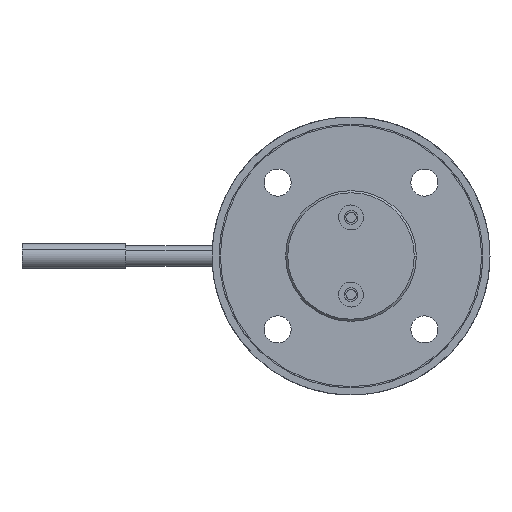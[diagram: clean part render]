
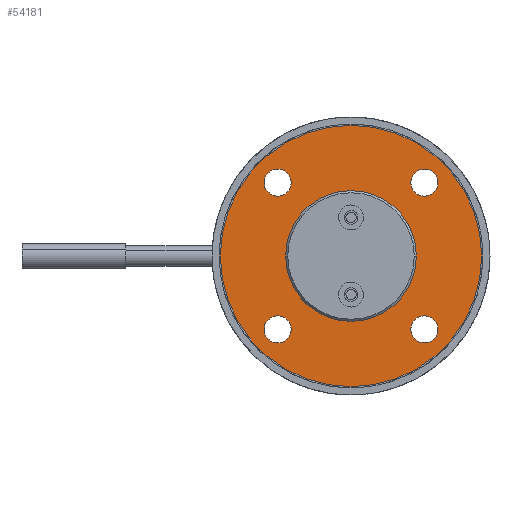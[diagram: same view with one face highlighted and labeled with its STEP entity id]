
A CAD part, left-side view. The second image highlights one B-rep face of the part: STEP entity #54181.
In plain terms, the highlighted planar face has unit normal (-1, 0, 0) as drawn and (1, 0, 0) by its records, which use the part's own axes.
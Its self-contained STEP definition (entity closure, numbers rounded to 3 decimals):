
#53608=CARTESIAN_POINT('Axis2P3D Location',(5.7,0.,0.)) ;
#53612=CARTESIAN_POINT('Vertex',(5.7,-31.5,0.)) ;
#53614=CARTESIAN_POINT('Vertex',(5.7,31.5,0.)) ;
#53643=CARTESIAN_POINT('Axis2P3D Location',(5.7,0.,0.)) ;
#53800=CARTESIAN_POINT('Vertex',(5.7,-14.428,17.678)) ;
#53814=CARTESIAN_POINT('Vertex',(5.7,-20.928,17.678)) ;
#53817=CARTESIAN_POINT('Axis2P3D Location',(5.7,-17.678,17.678)) ;
#53834=CARTESIAN_POINT('Axis2P3D Location',(5.7,-17.678,17.678)) ;
#54096=CARTESIAN_POINT('Axis2P3D Location',(5.7,0.,0.)) ;
#54109=CARTESIAN_POINT('Axis2P3D Location',(5.7,0.,0.)) ;
#54113=CARTESIAN_POINT('Vertex',(5.7,-15.75,0.)) ;
#54115=CARTESIAN_POINT('Vertex',(5.7,15.75,0.)) ;
#54118=CARTESIAN_POINT('Axis2P3D Location',(5.7,0.,0.)) ;
#54127=CARTESIAN_POINT('Axis2P3D Location',(5.7,-17.678,-17.678)) ;
#54131=CARTESIAN_POINT('Vertex',(5.7,-17.678,-14.428)) ;
#54133=CARTESIAN_POINT('Vertex',(5.7,-17.678,-20.928)) ;
#54136=CARTESIAN_POINT('Axis2P3D Location',(5.7,-17.678,-17.678)) ;
#54145=CARTESIAN_POINT('Axis2P3D Location',(5.7,17.678,-17.678)) ;
#54149=CARTESIAN_POINT('Vertex',(5.7,14.428,-17.678)) ;
#54151=CARTESIAN_POINT('Vertex',(5.7,20.928,-17.678)) ;
#54154=CARTESIAN_POINT('Axis2P3D Location',(5.7,17.678,-17.678)) ;
#54163=CARTESIAN_POINT('Axis2P3D Location',(5.7,17.678,17.678)) ;
#54167=CARTESIAN_POINT('Vertex',(5.7,17.678,14.428)) ;
#54169=CARTESIAN_POINT('Vertex',(5.7,17.678,20.928)) ;
#54172=CARTESIAN_POINT('Axis2P3D Location',(5.7,17.678,17.678)) ;
#53609=DIRECTION('Axis2P3D Direction',(-1.,0.,0.)) ;
#53644=DIRECTION('Axis2P3D Direction',(-1.,0.,0.)) ;
#53818=DIRECTION('Axis2P3D Direction',(-1.,0.,0.)) ;
#53835=DIRECTION('Axis2P3D Direction',(-1.,0.,0.)) ;
#54097=DIRECTION('Axis2P3D Direction',(-1.,0.,0.)) ;
#54098=DIRECTION('Axis2P3D XDirection',(0.,-1.,0.)) ;
#54110=DIRECTION('Axis2P3D Direction',(-1.,0.,0.)) ;
#54119=DIRECTION('Axis2P3D Direction',(-1.,0.,0.)) ;
#54128=DIRECTION('Axis2P3D Direction',(-1.,0.,0.)) ;
#54137=DIRECTION('Axis2P3D Direction',(-1.,0.,0.)) ;
#54146=DIRECTION('Axis2P3D Direction',(-1.,0.,0.)) ;
#54155=DIRECTION('Axis2P3D Direction',(-1.,0.,0.)) ;
#54164=DIRECTION('Axis2P3D Direction',(-1.,0.,0.)) ;
#54173=DIRECTION('Axis2P3D Direction',(-1.,0.,0.)) ;
#53610=AXIS2_PLACEMENT_3D('Circle Axis2P3D',#53608,#53609,$) ;
#53645=AXIS2_PLACEMENT_3D('Circle Axis2P3D',#53643,#53644,$) ;
#53819=AXIS2_PLACEMENT_3D('Circle Axis2P3D',#53817,#53818,$) ;
#53836=AXIS2_PLACEMENT_3D('Circle Axis2P3D',#53834,#53835,$) ;
#54099=AXIS2_PLACEMENT_3D('Plane Axis2P3D',#54096,#54097,#54098) ;
#54111=AXIS2_PLACEMENT_3D('Circle Axis2P3D',#54109,#54110,$) ;
#54120=AXIS2_PLACEMENT_3D('Circle Axis2P3D',#54118,#54119,$) ;
#54129=AXIS2_PLACEMENT_3D('Circle Axis2P3D',#54127,#54128,$) ;
#54138=AXIS2_PLACEMENT_3D('Circle Axis2P3D',#54136,#54137,$) ;
#54147=AXIS2_PLACEMENT_3D('Circle Axis2P3D',#54145,#54146,$) ;
#54156=AXIS2_PLACEMENT_3D('Circle Axis2P3D',#54154,#54155,$) ;
#54165=AXIS2_PLACEMENT_3D('Circle Axis2P3D',#54163,#54164,$) ;
#54174=AXIS2_PLACEMENT_3D('Circle Axis2P3D',#54172,#54173,$) ;
#54102=ORIENTED_EDGE('',*,*,#53647,.F.) ;
#54103=ORIENTED_EDGE('',*,*,#53616,.F.) ;
#54106=ORIENTED_EDGE('',*,*,#53821,.T.) ;
#54107=ORIENTED_EDGE('',*,*,#53838,.T.) ;
#54124=ORIENTED_EDGE('',*,*,#54117,.F.) ;
#54125=ORIENTED_EDGE('',*,*,#54122,.F.) ;
#54142=ORIENTED_EDGE('',*,*,#54135,.T.) ;
#54143=ORIENTED_EDGE('',*,*,#54140,.T.) ;
#54160=ORIENTED_EDGE('',*,*,#54153,.T.) ;
#54161=ORIENTED_EDGE('',*,*,#54158,.T.) ;
#54178=ORIENTED_EDGE('',*,*,#54171,.T.) ;
#54179=ORIENTED_EDGE('',*,*,#54176,.T.) ;
#54108=FACE_BOUND('',#54105,.T.) ;
#54126=FACE_BOUND('',#54123,.T.) ;
#54144=FACE_BOUND('',#54141,.T.) ;
#54162=FACE_BOUND('',#54159,.T.) ;
#54180=FACE_BOUND('',#54177,.T.) ;
#54181=ADVANCED_FACE('\X2\96F64EF651E04F554F53\X0\',(#54104,#54108,#54126,#54144,#54162,#54180),#54100,.F.) ;
#53611=CIRCLE('generated circle',#53610,31.5) ;
#53646=CIRCLE('generated circle',#53645,31.5) ;
#53820=CIRCLE('generated circle',#53819,3.25) ;
#53837=CIRCLE('generated circle',#53836,3.25) ;
#54112=CIRCLE('generated circle',#54111,15.75) ;
#54121=CIRCLE('generated circle',#54120,15.75) ;
#54130=CIRCLE('generated circle',#54129,3.25) ;
#54139=CIRCLE('generated circle',#54138,3.25) ;
#54148=CIRCLE('generated circle',#54147,3.25) ;
#54157=CIRCLE('generated circle',#54156,3.25) ;
#54166=CIRCLE('generated circle',#54165,3.25) ;
#54175=CIRCLE('generated circle',#54174,3.25) ;
#53616=EDGE_CURVE('',#53613,#53615,#53611,.T.) ;
#53647=EDGE_CURVE('',#53615,#53613,#53646,.T.) ;
#53821=EDGE_CURVE('',#53801,#53815,#53820,.T.) ;
#53838=EDGE_CURVE('',#53815,#53801,#53837,.T.) ;
#54117=EDGE_CURVE('',#54114,#54116,#54112,.F.) ;
#54122=EDGE_CURVE('',#54116,#54114,#54121,.F.) ;
#54135=EDGE_CURVE('',#54132,#54134,#54130,.T.) ;
#54140=EDGE_CURVE('',#54134,#54132,#54139,.T.) ;
#54153=EDGE_CURVE('',#54150,#54152,#54148,.T.) ;
#54158=EDGE_CURVE('',#54152,#54150,#54157,.T.) ;
#54171=EDGE_CURVE('',#54168,#54170,#54166,.T.) ;
#54176=EDGE_CURVE('',#54170,#54168,#54175,.T.) ;
#54101=EDGE_LOOP('',(#54102,#54103)) ;
#54105=EDGE_LOOP('',(#54106,#54107)) ;
#54123=EDGE_LOOP('',(#54124,#54125)) ;
#54141=EDGE_LOOP('',(#54142,#54143)) ;
#54159=EDGE_LOOP('',(#54160,#54161)) ;
#54177=EDGE_LOOP('',(#54178,#54179)) ;
#54104=FACE_OUTER_BOUND('',#54101,.T.) ;
#54100=PLANE('Plane',#54099) ;
#53613=VERTEX_POINT('',#53612) ;
#53615=VERTEX_POINT('',#53614) ;
#53801=VERTEX_POINT('',#53800) ;
#53815=VERTEX_POINT('',#53814) ;
#54114=VERTEX_POINT('',#54113) ;
#54116=VERTEX_POINT('',#54115) ;
#54132=VERTEX_POINT('',#54131) ;
#54134=VERTEX_POINT('',#54133) ;
#54150=VERTEX_POINT('',#54149) ;
#54152=VERTEX_POINT('',#54151) ;
#54168=VERTEX_POINT('',#54167) ;
#54170=VERTEX_POINT('',#54169) ;
